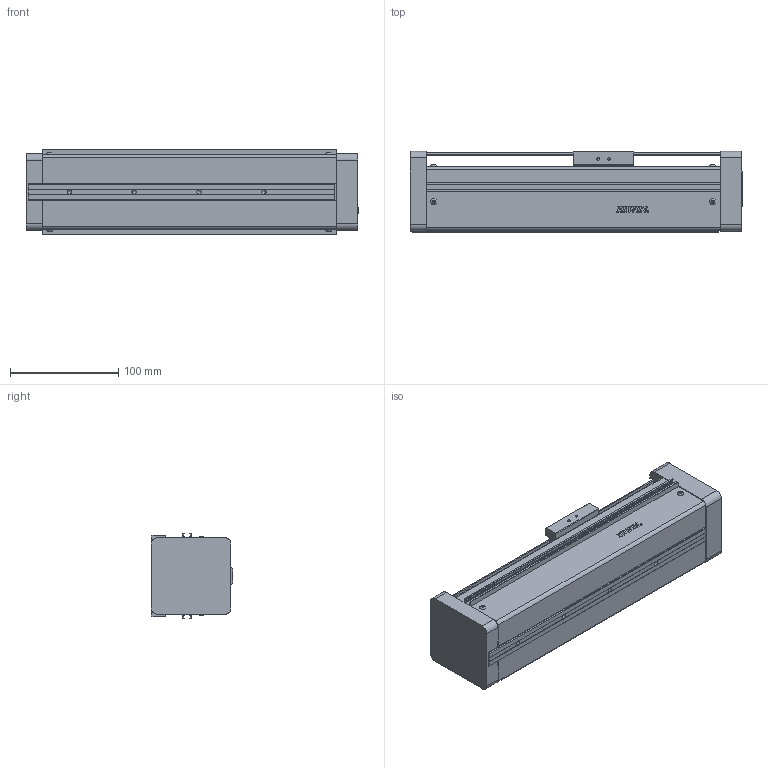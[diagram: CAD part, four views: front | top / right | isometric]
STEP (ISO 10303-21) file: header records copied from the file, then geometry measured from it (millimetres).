
FILE_DESCRIPTION(/* description */ (''),/* implementation_level */ '2;1');
FILE_NAME(/* name */ 'D:\混合母檔20191031\混和母檔\混和母檔\bin\Debug\Download\3D\KE705C-100AF0\KE705C-100AF0.stp',/* time_stamp */ '2019-11-04T13:59:43+08:00',/* author */ ('user'),/* organization */ (''),/* preprocessor_version */ 'ST-DEVELOPER v16.13',/* originating_system */ 'Autodesk Inventor 2018',/* authorisation */ '');
FILE_SCHEMA (('AUTOMOTIVE_DESIGN { 1 0 10303 214 3 1 1 }'));
Length unit declared in the file: millimetre
Products named in the file (3): KE705C-100AF0; KE70-F0-BP; KE70-SL
Assembly tree (2 placements, depth 2):
  KE705C-100AF0
    KE70-F0-BP
    KE70-SL
Bounding box: 307 x 75 x 79.4 mm (x, y, z)
Volume: 1280968.5 mm3; surface area: 199171.5 mm2
Topology: 2 solids, 29 shells, 807 faces, 2146 edges, 1411 vertices
Faces by surface type: plane 487, bspline 148, cylinder 102, cone 58, torus 12
Full cylindrical faces by diameter (mm): 2.459 x20, 3 x12, 3.242 x6, 3.5 x16, 4.134 x8, 5.7 x12, 6 x5, 30 x1
Entity records: 27090 total; most frequent: CARTESIAN_POINT 8671, ORIENTED_EDGE 3802, DIRECTION 3200, EDGE_CURVE 1901, VERTEX_POINT 1316, LINE 1252, VECTOR 1252, EDGE_LOOP 1011
